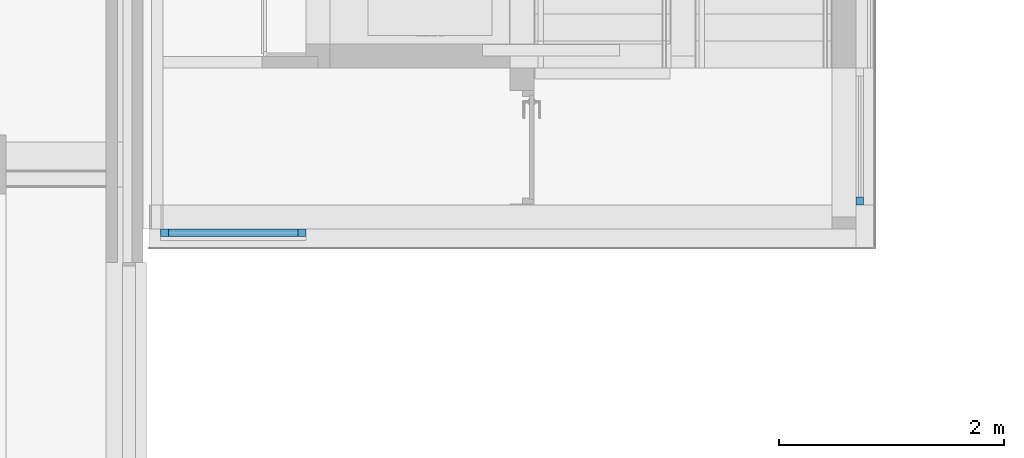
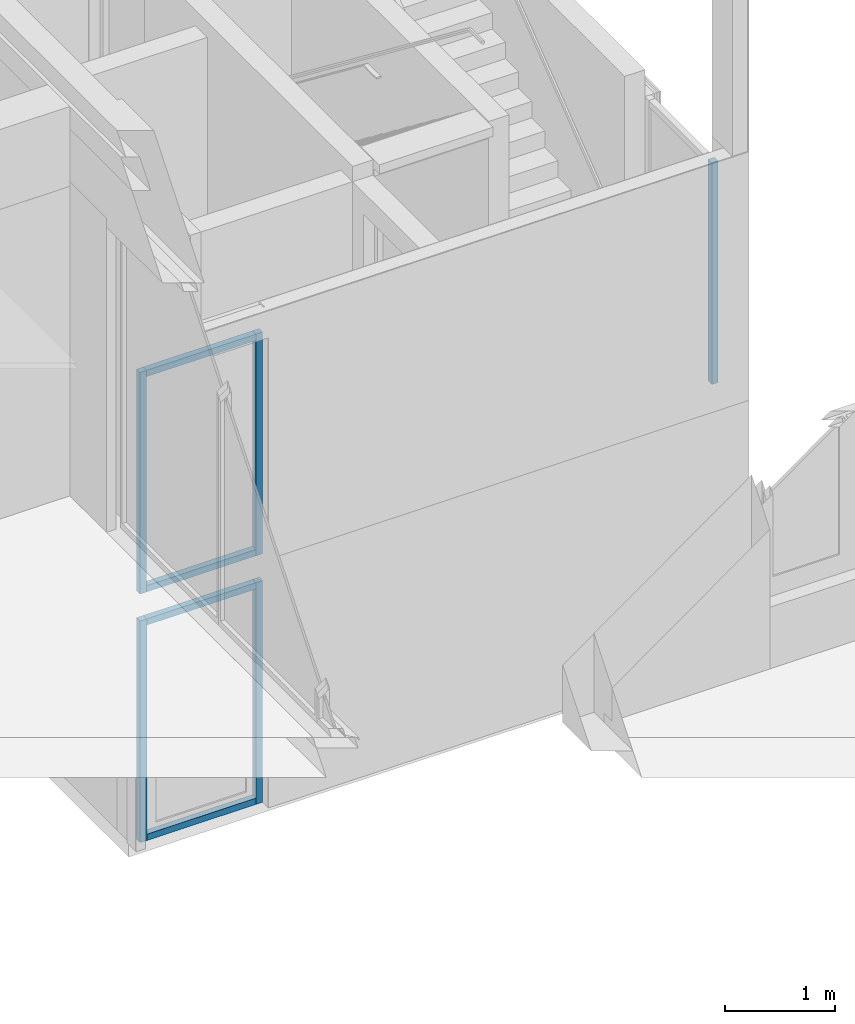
# One storey, part 1 of 117: 11 members, 4 elements without a shape of their own.
"""IFC2X3 building model written with IfcOpenShell, lengths in millimetres."""

from ifc_helpers import new_model, entity, si_unit, converted_unit, derived_unit, money_unit, direction, frame, origin_with_axes, place, context, subcontext, project, spatial, faceted_brep, source, transform, mapped, material, type_object, type_shapes, element, aggregate, save


model = new_model("IFC2X3")

# Units and contexts
model_context = context("Model", 3, precision=0.01, world=origin_with_axes(), true_north=direction((0.0, 1.0)))
body_context = subcontext(model_context, "Body", "Model", "MODEL_VIEW")
ifc_project = project(units=[si_unit("LENGTHUNIT", "METRE", prefix="MILLI"), si_unit("AREAUNIT", "SQUARE_METRE"), si_unit("VOLUMEUNIT", "CUBIC_METRE"), converted_unit("PLANEANGLEUNIT", "DEGREE", entity("IfcPlaneAngleMeasure", 0.0174532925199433), si_unit("PLANEANGLEUNIT", "RADIAN"), dimensions=[0, 0, 0, 0, 0, 0, 0]), money_unit("EUR"), converted_unit("TIMEUNIT", "Year", entity("IfcTimeMeasure", 31557600.0), si_unit("TIMEUNIT", "SECOND"), dimensions=[0, 0, 1, 0, 0, 0, 0]), si_unit("MASSUNIT", "GRAM", prefix="KILO"), si_unit("THERMODYNAMICTEMPERATUREUNIT", "DEGREE_CELSIUS"), si_unit("LUMINOUSINTENSITYUNIT", "LUMEN"), si_unit("ENERGYUNIT", "JOULE", prefix="MEGA"), derived_unit("THERMALCONDUCTANCEUNIT", [(si_unit("POWERUNIT", "WATT"), 1), (si_unit("LENGTHUNIT", "METRE"), -1), (si_unit("THERMODYNAMICTEMPERATUREUNIT", "KELVIN"), -1)]), derived_unit("SPECIFICHEATCAPACITYUNIT", [(si_unit("ENERGYUNIT", "JOULE"), 1), (si_unit("MASSUNIT", "GRAM", prefix="KILO"), -1), (si_unit("THERMODYNAMICTEMPERATUREUNIT", "KELVIN"), -1)]), derived_unit("MASSDENSITYUNIT", [(si_unit("MASSUNIT", "GRAM", prefix="KILO"), 1), (si_unit("VOLUMEUNIT", "CUBIC_METRE"), -1)])], contexts=[model_context])

# Site, building, storey
site_placement = place(None, origin_with_axes())
site = spatial("IfcSite", under=ifc_project, at=site_placement, Name="Site", CompositionType="ELEMENT")
building_placement = place(site_placement, origin_with_axes())
building = spatial("IfcBuilding", under=site, at=building_placement, Name="Naam gebouw", CompositionType="ELEMENT")
storey_placement = place(building_placement, frame((0.0, 0.0, 4150.0), z_axis=(0.0, 0.0, 1.0), x_axis=(1.0, 0.0, 0.0)))
storey = spatial("IfcBuildingStorey", under=building, at=storey_placement, Name="1e verdieping N", CompositionType="ELEMENT", Elevation=4150.0)

# Curtain wall, member
curtain_wall_type = type_object("IfcCurtainWallType", Name="Curtain Wall:21_CW_alu kozijn 070x065", PredefinedType="NOTDEFINED")
curtain_wall_1_placement = place(storey_placement, frame((0.0, 0.0, -4150.0), z_axis=(0.0, 0.0, 1.0), x_axis=(1.0, 0.0, 0.0)))
curtain_wall_1 = element("IfcCurtainWall", 1, at=curtain_wall_1_placement, inside=storey, type_object=curtain_wall_type, Name="Curtain Wall:21_CW_alu kozijn 070x065", ObjectType="Curtain Wall:21_CW_alu kozijn 070x065")
ifc_material = material(Name="RAL 7024 - Grafietgrijs")
member_type_1 = type_object("IfcMemberType", Name="Rectangular Mullion:31_alu_070x065 RAL 7024", PredefinedType="MULLION")
shared_shape_1 = source(origin_with_axes(), body_context, "Body", "Brep", [
    faceted_brep([(0.0, -32.5, 2470.0), (-70.0, -32.50000000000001, 2470.0), (-70.0, -32.50000000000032, 0.0), (0.0, -32.50000000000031, 0.0), (0.0, 32.50000000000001, 2470.0), (-70.0, 32.5, 2470.0), (-70.0, 32.49999999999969, 0.0), (0.0, 32.49999999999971, 0.0)], [[[0, 1, 2, 3]], [[0, 4, 5, 1]], [[1, 5, 6, 2]], [[3, 2, 6, 7]], [[4, 0, 3, 7]], [[5, 4, 7, 6]]]),
])
type_shapes(member_type_1, [shared_shape_1])
member_1_placement = place(curtain_wall_1_placement, frame((36613.5000000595, 32925.91242631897, 3150.0), z_axis=(0.0, 0.0, 1.0), x_axis=(0.0, -1.0, 0.0)))
member_1 = element("IfcMember", 2, at=member_1_placement, type_object=member_type_1, material=ifc_material, Name="Rectangular Mullion:31_alu_070x065 RAL 7024", ObjectType="MULLION", context=body_context, shape_type="MappedRepresentation", body=[
    mapped(shared_shape_1, transform((0.0, 0.0, 0.0))),
])
aggregate(curtain_wall_1, [member_1])

curtain_wall_2_placement = place(storey_placement, frame((0.0, 0.0, -4150.0), z_axis=(0.0, 0.0, 1.0), x_axis=(1.0, 0.0, 0.0)))
curtain_wall_2 = element("IfcCurtainWall", 3, at=curtain_wall_2_placement, inside=storey, type_object=curtain_wall_type, Name="Curtain Wall:21_CW_alu kozijn 070x065", ObjectType="Curtain Wall:21_CW_alu kozijn 070x065")
member_2_placement = place(curtain_wall_2_placement, frame((30391.00000002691, 32679.41242631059, 3150.0), z_axis=(0.0, 0.0, 1.0), x_axis=(-1.0, 0.0, 0.0)))
member_2 = element("IfcMember", 4, at=member_2_placement, type_object=member_type_1, material=ifc_material, Name="Rectangular Mullion:31_alu_070x065 RAL 7024", ObjectType="MULLION", context=body_context, shape_type="MappedRepresentation", body=[
    mapped(shared_shape_1, transform((0.0, 0.0, 0.0))),
])

curtain_wall_3_placement = place(storey_placement, frame((0.0, 0.0, -4150.0), z_axis=(0.0, 0.0, 1.0), x_axis=(1.0, 0.0, 0.0)))
curtain_wall_3 = element("IfcCurtainWall", 5, at=curtain_wall_3_placement, inside=storey, type_object=curtain_wall_type, Name="Curtain Wall:21_CW_alu kozijn 070x065", ObjectType="Curtain Wall:21_CW_alu kozijn 070x065")
member_3_placement = place(curtain_wall_3_placement, frame((30391.00000002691, 32679.41242631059, 379.9999999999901), z_axis=(0.0, 0.0, 1.0), x_axis=(-1.0, 0.0, 0.0)))
member_3 = element("IfcMember", 6, at=member_3_placement, type_object=member_type_1, material=ifc_material, Name="Rectangular Mullion:31_alu_070x065 RAL 7024", ObjectType="MULLION", context=body_context, shape_type="MappedRepresentation", body=[
    mapped(shared_shape_1, transform((0.0, 0.0, 0.0))),
])

curtain_wall_4_placement = place(storey_placement, frame((0.0, 0.0, -4150.0), z_axis=(0.0, 0.0, 1.0), x_axis=(1.0, 0.0, 0.0)))
curtain_wall_4 = element("IfcCurtainWall", 7, at=curtain_wall_4_placement, inside=storey, type_object=curtain_wall_type, Name="Curtain Wall:21_CW_alu kozijn 070x065", ObjectType="Curtain Wall:21_CW_alu kozijn 070x065")
member_4_placement = place(curtain_wall_4_placement, frame((30394.47296357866, 32679.41242631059, 379.9999999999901), z_axis=(0.0, 0.0, 1.0), x_axis=(-1.0, 0.0, 0.0)))
member_4 = element("IfcMember", 8, at=member_4_placement, type_object=member_type_1, material=ifc_material, Name="Rectangular Mullion:31_alu_070x065 RAL 7024", ObjectType="MULLION", context=body_context, shape_type="MappedRepresentation", body=[
    mapped(shared_shape_1, transform((0.0, 0.0, 0.0))),
])

# Member
member_type_2 = type_object("IfcMemberType", Name="Rectangular Mullion:31_alu_070x065 RAL 7024", PredefinedType="MULLION")
shared_shape_2 = source(origin_with_axes(), body_context, "Body", "Brep", [
    faceted_brep([(0.0, 32.5, -2470.0), (-70.0, 32.50000000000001, -2470.0), (-70.0, 32.50000000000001, 0.0), (0.0, 32.5, 0.0), (0.0, -32.50000000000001, -2470.0), (-70.0, -32.5, -2470.0), (-70.0, -32.5, 0.0), (0.0, -32.50000000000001, 0.0)], [[[0, 1, 2, 3]], [[0, 4, 5, 1]], [[1, 5, 6, 2]], [[3, 2, 6, 7]], [[4, 0, 3, 7]], [[5, 4, 7, 6]]]),
])
type_shapes(member_type_2, [shared_shape_2])
member_5_placement = place(curtain_wall_3_placement, frame((31685.01028266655, 32679.41242631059, 2849.999999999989), z_axis=(0.0, 0.0, 1.0), x_axis=(1.0, 0.0, 0.0)))
member_5 = element("IfcMember", 9, at=member_5_placement, type_object=member_type_2, material=ifc_material, Name="Rectangular Mullion:31_alu_070x065 RAL 7024", ObjectType="MULLION", context=body_context, shape_type="MappedRepresentation", body=[
    mapped(shared_shape_2, transform((0.0, 0.0, 0.0))),
])

member_6_placement = place(curtain_wall_2_placement, frame((31685.01028266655, 32679.41242631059, 5619.999999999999), z_axis=(0.0, 0.0, 1.0), x_axis=(1.0, 0.0, 0.0)))
member_6 = element("IfcMember", 10, at=member_6_placement, type_object=member_type_2, material=ifc_material, Name="Rectangular Mullion:31_alu_070x065 RAL 7024", ObjectType="MULLION", context=body_context, shape_type="MappedRepresentation", body=[
    mapped(shared_shape_2, transform((0.0, 0.0, 0.0))),
])

member_7_placement = place(curtain_wall_4_placement, frame((31685.00000002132, 32679.41242631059, 2849.999999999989), z_axis=(0.0, 0.0, 1.0), x_axis=(1.0, 0.0, 0.0)))
member_7 = element("IfcMember", 11, at=member_7_placement, type_object=member_type_2, material=ifc_material, Name="Rectangular Mullion:31_alu_070x065 RAL 7024", ObjectType="MULLION", context=body_context, shape_type="MappedRepresentation", body=[
    mapped(shared_shape_2, transform((0.0, 0.0, 0.0))),
])

aggregate(curtain_wall_4, [member_4, member_7])

member_type_3 = type_object("IfcMemberType", Name="Rectangular Mullion:31_alu_070x065 RAL 7024", PredefinedType="MULLION")
shared_shape_3 = source(origin_with_axes(), body_context, "Body", "Brep", [
    faceted_brep([(32.49999999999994, 1154.0, 0.0), (32.49999999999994, 1154.0, 70.0), (32.50000000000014, -2.993161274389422e-10, 70.0), (32.50000000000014, -2.993161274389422e-10, 0.0), (-32.50000000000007, 1154.0, 0.0), (-32.50000000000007, 1154.0, 70.0), (-32.49999999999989, -2.993161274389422e-10, 70.0), (-32.49999999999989, -2.993161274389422e-10, 0.0)], [[[0, 1, 2, 3]], [[0, 4, 5, 1]], [[1, 5, 6, 2]], [[3, 2, 6, 7]], [[4, 0, 3, 7]], [[5, 4, 7, 6]]]),
])
type_shapes(member_type_3, [shared_shape_3])
member_8_placement = place(curtain_wall_3_placement, frame((31615.01028263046, 32679.41242631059, 379.9999999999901), z_axis=(0.0, 0.0, 1.0), x_axis=(0.0, 1.0, 0.0)))
member_8 = element("IfcMember", 12, at=member_8_placement, type_object=member_type_3, material=ifc_material, Name="Rectangular Mullion:31_alu_070x065 RAL 7024", ObjectType="MULLION", context=body_context, shape_type="MappedRepresentation", body=[
    mapped(shared_shape_3, transform((0.0, 0.0, 0.0))),
])

member_9_placement = place(curtain_wall_2_placement, frame((31615.01028263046, 32679.41242631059, 3150.0), z_axis=(0.0, 0.0, 1.0), x_axis=(0.0, 1.0, 0.0)))
member_9 = element("IfcMember", 13, at=member_9_placement, type_object=member_type_3, material=ifc_material, Name="Rectangular Mullion:31_alu_070x065 RAL 7024", ObjectType="MULLION", context=body_context, shape_type="MappedRepresentation", body=[
    mapped(shared_shape_3, transform((0.0, 0.0, 0.0))),
])

member_type_4 = type_object("IfcMemberType", Name="Rectangular Mullion:31_alu_070x065 RAL 7024", PredefinedType="MULLION")
shared_shape_4 = source(origin_with_axes(), body_context, "Body", "Brep", [
    faceted_brep([(32.50000000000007, -1154.0, 0.0), (32.50000000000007, -1154.0, -70.0), (32.49999999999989, 2.993161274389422e-10, -70.0), (32.49999999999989, 2.993161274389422e-10, 0.0), (-32.49999999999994, -1154.0, 0.0), (-32.49999999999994, -1154.0, -70.0), (-32.50000000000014, 2.993161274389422e-10, -70.0), (-32.50000000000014, 2.993161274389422e-10, 0.0)], [[[0, 1, 2, 3]], [[0, 4, 5, 1]], [[1, 5, 6, 2]], [[3, 2, 6, 7]], [[4, 0, 3, 7]], [[5, 4, 7, 6]]]),
])
type_shapes(member_type_4, [shared_shape_4])
member_10_placement = place(curtain_wall_3_placement, frame((30461.00000003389, 32679.41242631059, 2849.999999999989), z_axis=(0.0, 0.0, 1.0), x_axis=(0.0, 1.0, 0.0)))
member_10 = element("IfcMember", 14, at=member_10_placement, type_object=member_type_4, material=ifc_material, Name="Rectangular Mullion:31_alu_070x065 RAL 7024", ObjectType="MULLION", context=body_context, shape_type="MappedRepresentation", body=[
    mapped(shared_shape_4, transform((0.0, 0.0, 0.0))),
])

aggregate(curtain_wall_3, [member_8, member_10, member_5, member_3])

member_11_placement = place(curtain_wall_2_placement, frame((30461.00000003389, 32679.41242631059, 5619.999999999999), z_axis=(0.0, 0.0, 1.0), x_axis=(0.0, 1.0, 0.0)))
member_11 = element("IfcMember", 15, at=member_11_placement, type_object=member_type_4, material=ifc_material, Name="Rectangular Mullion:31_alu_070x065 RAL 7024", ObjectType="MULLION", context=body_context, shape_type="MappedRepresentation", body=[
    mapped(shared_shape_4, transform((0.0, 0.0, 0.0))),
])

aggregate(curtain_wall_2, [member_2, member_9, member_11, member_6])

save(model, "model.ifc")
